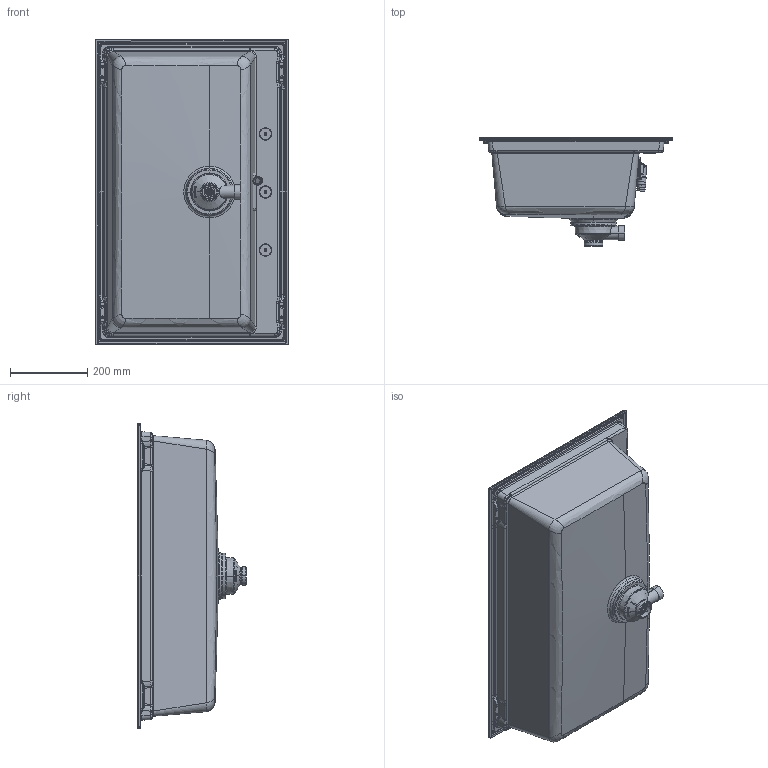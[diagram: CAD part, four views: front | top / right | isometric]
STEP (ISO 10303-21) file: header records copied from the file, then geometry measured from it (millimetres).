
FILE_DESCRIPTION (( 'STEP AP203' ), '1' );
FILE_NAME ('3d_sintesi_130.STEP', '2022-02-16T10:46:19', ( '' ), ( '' ), 'SwSTEP 2.0', 'SolidWorks 2021', '' );
FILE_SCHEMA (( 'CONFIG_CONTROL_DESIGN' ));
Length unit declared in the file: millimetre
Products named in the file (4): 3d_piletta_2021_1via_X_ASSIEME_LAVELLI_Default<A macchina>; 3d_sintesi_130_SBORDATO; 3d_sintesi_130; TP_rettangolare slim_anonima
Assembly tree (3 placements, depth 2):
  3d_sintesi_130
    3d_sintesi_130_SBORDATO
    3d_piletta_2021_1via_X_ASSIEME_LAVELLI_Default<A macchina>
    TP_rettangolare slim_anonima
Bounding box: 500 x 280.38 x 790 mm (x, y, z)
Volume: 6094592.4 mm3; surface area: 1691773.1 mm2
Topology: 10 solids, 10 shells, 3865 faces, 9659 edges, 5864 vertices
Faces by surface type: bspline 1469, cylinder 925, plane 841, cone 393, torus 229, sphere 8
Entity records: 217963 total; most frequent: CARTESIAN_POINT 137231, ORIENTED_EDGE 19178, DIRECTION 13277, EDGE_CURVE 9589, VERTEX_POINT 5863, AXIS2_PLACEMENT_3D 5128, EDGE_LOOP 4070, FACE_OUTER_BOUND 3865
